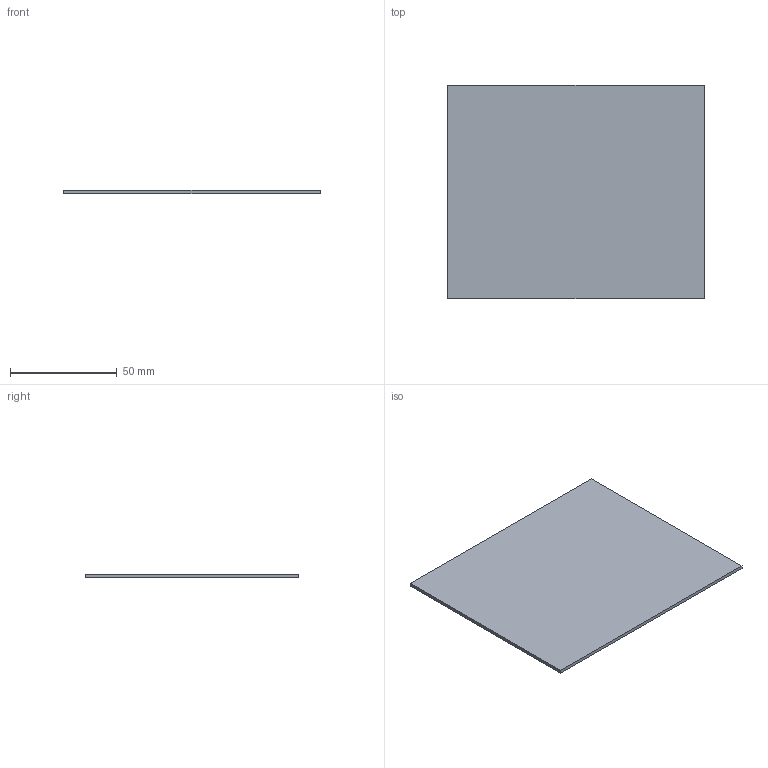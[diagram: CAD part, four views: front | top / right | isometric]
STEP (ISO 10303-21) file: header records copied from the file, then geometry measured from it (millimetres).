
FILE_DESCRIPTION(('KiCad electronic assembly'),'2;1');
FILE_NAME('Leach Second Stage.step','2024-08-10T14:48:28',('Pcbnew'),( 'Kicad'),'Open CASCADE STEP processor 7.7','KiCad to STEP converter' ,'Unknown');
FILE_SCHEMA(('AUTOMOTIVE_DESIGN { 1 0 10303 214 1 1 1 1 }'));
Length unit declared in the file: millimetre
Products named in the file (2): Leach Second Stage 1; Leach Second Stage PCB
Assembly tree (1 placements, depth 2):
  Leach Second Stage 1
    Leach Second Stage PCB
Bounding box: 120 x 100 x 1.58 mm (x, y, z)
Volume: 18960 mm3; surface area: 24695.2 mm2
Topology: 1 solids, 1 shells, 6 faces, 12 edges, 8 vertices
Faces by surface type: plane 6
Entity records: 361 total; most frequent: CARTESIAN_POINT 52, DIRECTION 52, LINE 36, VECTOR 36, ORIENTED_EDGE 24, PCURVE 24, DEFINITIONAL_REPRESENTATION 24, EDGE_CURVE 12
